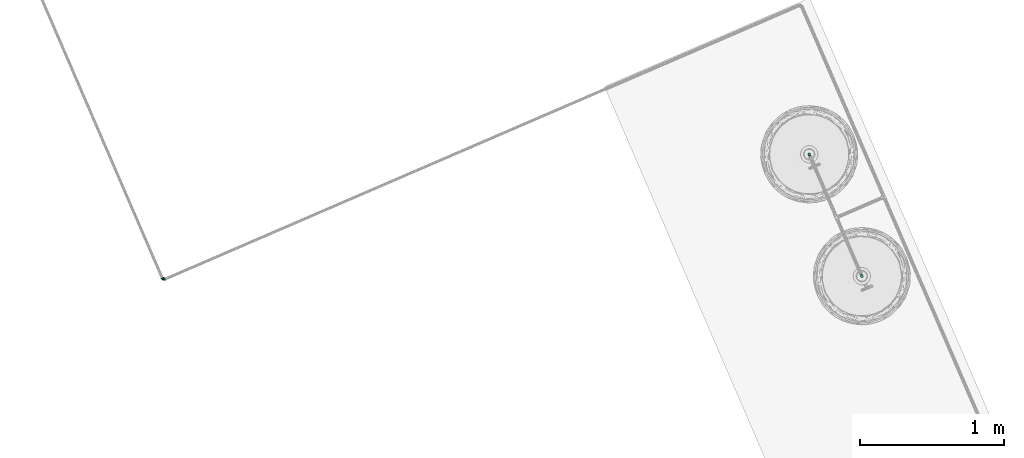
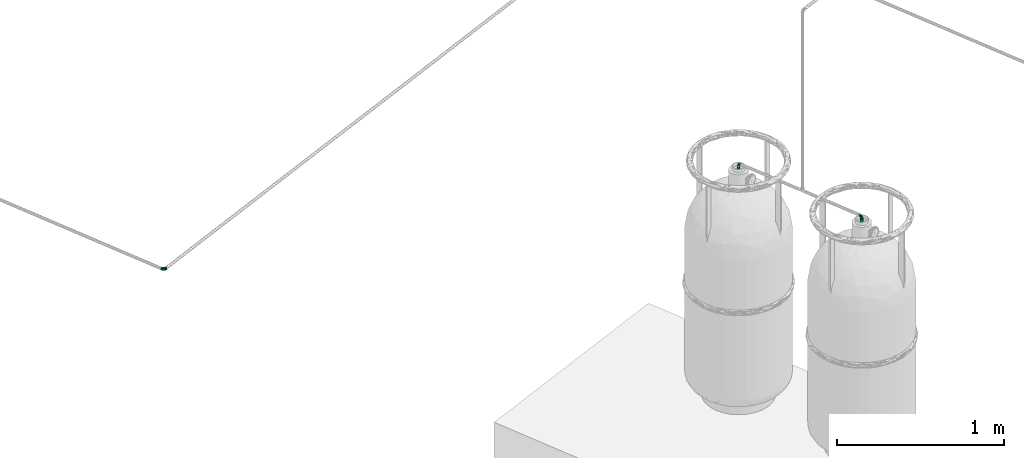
# One storey, part 21 of 26: 5 pipe fittings, 2 pipe segments.
"""IFC4 building model written with IfcOpenShell, lengths in metres."""

import ifcopenshell
import ifcopenshell.guid

model = None  # the IFC model being written
_history = None  # IfcOwnerHistory: only IFC2X3 demands one
_inside = {}  # id of a spatial element -> (the spatial element, [elements in it])
_under = {}  # id of a project, library or spatial element -> (it, [spatial elements below it])
_declared = {}  # id of a project -> (the project, [libraries it declares])
_typed = {}  # id of a type object -> (the type object, [elements of that type])
_made_of = {}  # id of a material, layer set ... -> (it, [elements and type objects made of it])


def new_model(schema):
    """Start an empty IFC model of exactly this schema.

    Asked for "IFC4X3", IfcOpenShell would pick the latest addendum, in which some entities
    have other attributes; the version numbers below select the first issue.
    IFC2X3 requires an IfcOwnerHistory on every rooted entity: one is made here for all.
    """
    global model, _history
    if schema == "IFC4X3":
        model = ifcopenshell.file(schema_version=(4, 3, 0, 0))
    else:
        model = ifcopenshell.file(schema=schema)
    _inside.clear()
    _under.clear()
    _declared.clear()
    _typed.clear()
    _made_of.clear()
    _history = None
    if model.schema == "IFC2X3":
        org = make("IfcOrganization", Name="unknown")
        user = make(
            "IfcPersonAndOrganization",
            ThePerson=make("IfcPerson", FamilyName="unknown"),
            TheOrganization=org,
        )
        app = make(
            "IfcApplication",
            ApplicationDeveloper=org,
            Version="unknown",
            ApplicationFullName="unknown",
            ApplicationIdentifier="unknown",
        )
        _history = make(
            "IfcOwnerHistory",
            OwningUser=user,
            OwningApplication=app,
            ChangeAction="ADDED",
            CreationDate=0,
        )
    return model


def make(cls, **values):
    """One entity of the class cls with the attributes given. An attribute that is None is left unset."""
    return model.create_entity(
        cls, **{name: value for name, value in values.items() if value is not None}
    )


def entity(cls, *values):
    """Any entity or typed value of the class cls, its attributes in the order of the schema. None: left unset."""
    e = model.create_entity(cls)
    for i, value in enumerate(values):
        if value is not None:
            e[i] = value
    return e


def rooted(cls, **values):
    """An entity with a GlobalId (a new one), such as an element, a storey or a relation."""
    return make(cls, GlobalId=ifcopenshell.guid.new(), OwnerHistory=_history, **values)


def si_unit(unit_type, name, prefix=None):
    """IfcSIUnit, for example si_unit("LENGTHUNIT", "METRE", prefix="MILLI")."""
    return make("IfcSIUnit", UnitType=unit_type, Prefix=prefix, Name=name)


def converted_unit(unit_type, name, factor, base, dimensions=None, offset=None):
    """IfcConversionBasedUnit, such as the inch: factor (a typed value) times the base unit."""
    return make(
        "IfcConversionBasedUnit"
        if offset is None
        else "IfcConversionBasedUnitWithOffset",
        ConversionOffset=offset,
        Dimensions=None
        if dimensions is None
        else entity("IfcDimensionalExponents", *dimensions),
        UnitType=unit_type,
        Name=name,
        ConversionFactor=make(
            "IfcMeasureWithUnit", ValueComponent=factor, UnitComponent=base
        ),
    )


def derived_unit(unit_type, elements):
    """IfcDerivedUnit: a product of units, each with its exponent."""
    return make(
        "IfcDerivedUnit",
        Elements=[
            make("IfcDerivedUnitElement", Unit=unit, Exponent=power)
            for unit, power in elements
        ],
        UnitType=unit_type,
    )


def assignment(units):
    """IfcUnitAssignment: the units of a project."""
    return None if units is None else make("IfcUnitAssignment", Units=units)


def point(xyz):
    """IfcCartesianPoint."""
    return None if xyz is None else make("IfcCartesianPoint", Coordinates=xyz)


def direction(xyz):
    """IfcDirection."""
    return None if xyz is None else make("IfcDirection", DirectionRatios=xyz)


def frame(location, z_axis=None, x_axis=None):
    """IfcAxis2Placement3D, a coordinate frame: its origin and axes. An axis left out is left unset."""
    return make(
        "IfcAxis2Placement3D",
        Location=point(location),
        Axis=direction(z_axis),
        RefDirection=direction(x_axis),
    )


def origin():
    """The frame at (0, 0, 0) with its axes left unset."""
    return frame((0.0, 0.0, 0.0))


def place(relative_to, where):
    """IfcLocalPlacement: puts the frame where relative to a parent placement (None: the world)."""
    return make(
        "IfcLocalPlacement", PlacementRelTo=relative_to, RelativePlacement=where
    )


def context(
    kind, dimensions, precision=None, world=None, true_north=None, identifier=None
):
    """IfcGeometricRepresentationContext, for example the 3D "Model" context."""
    return make(
        "IfcGeometricRepresentationContext",
        ContextIdentifier=identifier,
        ContextType=kind,
        CoordinateSpaceDimension=dimensions,
        Precision=precision,
        WorldCoordinateSystem=world,
        TrueNorth=true_north,
    )


def subcontext(parent, identifier, kind, view, scale=None):
    """IfcGeometricRepresentationSubContext, for example "Body" below "Model"."""
    return make(
        "IfcGeometricRepresentationSubContext",
        ContextIdentifier=identifier,
        ContextType=kind,
        ParentContext=parent,
        TargetScale=scale,
        TargetView=view,
    )


def project(units=None, contexts=None):
    """IfcProject with its units and contexts."""
    return rooted(
        "IfcProject",
        Name="project",
        RepresentationContexts=contexts,
        UnitsInContext=assignment(units),
    )


def spatial(cls, under=None, at=None, **own):
    """A site, building, storey or space (cls), placed at a placement, below another one or the project."""
    s = rooted(cls, ObjectPlacement=at, **own)
    if under is not None:
        _under.setdefault(under.id(), (under, []))[1].append(s)
    return s


def point_list(points):
    """IfcCartesianPointList2D or 3D."""
    cls = (
        "IfcCartesianPointList2D" if len(points[0]) == 2 else "IfcCartesianPointList3D"
    )
    return make(cls, CoordList=points)


def arc(*indices):
    """IfcArcIndex: an arc through three numbered points of an indexed curve."""
    return model.create_entity("IfcArcIndex", indices)


def indexed_curve(points, segments=None, self_intersect=None):
    """IfcIndexedPolyCurve: lines and arcs through numbered points (the first is 1)."""
    return make(
        "IfcIndexedPolyCurve",
        Points=point_list(points),
        Segments=segments,
        SelfIntersect=self_intersect,
    )


def outline(outer, holes=None, kind="AREA"):
    """IfcArbitraryClosedProfileDef: a profile drawn as a closed curve; with holes, ...WithVoids."""
    if holes is None:
        return make("IfcArbitraryClosedProfileDef", ProfileType=kind, OuterCurve=outer)
    return make(
        "IfcArbitraryProfileDefWithVoids",
        ProfileType=kind,
        OuterCurve=outer,
        InnerCurves=holes,
    )


def extrude(swept, where, along, depth):
    """IfcExtrudedAreaSolid: the profile swept, set in the frame where, extruded along a direction by depth."""
    return make(
        "IfcExtrudedAreaSolid",
        SweptArea=swept,
        Position=where,
        ExtrudedDirection=direction(along),
        Depth=depth,
    )


def polygons(points, faces, closed=None, point_numbers=None):
    """IfcPolygonalFaceSet: a face is its outer loop, then its inner loops; points numbered from 1."""
    made = []
    for loops in faces:
        if len(loops) == 1:
            made.append(make("IfcIndexedPolygonalFace", CoordIndex=loops[0]))
        else:
            made.append(
                make(
                    "IfcIndexedPolygonalFaceWithVoids",
                    CoordIndex=loops[0],
                    InnerCoordIndices=loops[1:],
                )
            )
    return make(
        "IfcPolygonalFaceSet",
        Coordinates=point_list(points),
        Closed=closed,
        Faces=made,
        PnIndex=point_numbers,
    )


def shape(context_of_items, identifier, shape_type, items):
    """IfcShapeRepresentation: the items that make up one representation, for example the "Body"."""
    return make(
        "IfcShapeRepresentation",
        ContextOfItems=context_of_items,
        RepresentationIdentifier=identifier,
        RepresentationType=shape_type,
        Items=items,
    )


def source(mapping_origin, context_of_items, identifier, shape_type, items):
    """IfcRepresentationMap: a shape defined once, which mapped items show again and again."""
    return make(
        "IfcRepresentationMap",
        MappingOrigin=mapping_origin,
        MappedRepresentation=shape(context_of_items, identifier, shape_type, items),
    )


def transform(
    local_origin,
    x_axis=None,
    y_axis=None,
    z_axis=None,
    scale=None,
    scale2=None,
    scale3=None,
    uniform=True,
):
    """IfcCartesianTransformationOperator3D, or its non-uniform kind. x_axis, y_axis, z_axis: its Axis1, 2, 3."""
    if uniform:
        return make(
            "IfcCartesianTransformationOperator3D",
            Axis1=direction(x_axis),
            Axis2=direction(y_axis),
            LocalOrigin=point(local_origin),
            Scale=scale,
            Axis3=direction(z_axis),
        )
    return make(
        "IfcCartesianTransformationOperator3DnonUniform",
        Axis1=direction(x_axis),
        Axis2=direction(y_axis),
        LocalOrigin=point(local_origin),
        Scale=scale,
        Axis3=direction(z_axis),
        Scale2=scale2,
        Scale3=scale3,
    )


def mapped(mapping_source, mapping_target):
    """IfcMappedItem: shows the shape of a source again, moved by a transform."""
    return make(
        "IfcMappedItem", MappingSource=mapping_source, MappingTarget=mapping_target
    )


def material(Name=None, Category=None):
    """IfcMaterial."""
    return make("IfcMaterial", Name=Name, Category=Category)


def made_of(thing, what):
    """Note that an element or type object is made of a material, layer set ...; save() writes the relation."""
    if what is not None:
        _made_of.setdefault(what.id(), (what, []))[1].append(thing)
    return thing


def type_object(cls, material=None, **own):
    """A type object (cls), such as IfcWallType, which elements share."""
    return made_of(rooted(cls, **own), material)


def type_shapes(of_type, sources):
    """Give a type object the sources (RepresentationMaps) that its elements show as mapped items."""
    of_type.RepresentationMaps = sources


def element(
    cls,
    number,
    at=None,
    inside=None,
    cuts=None,
    type_object=None,
    material=None,
    context=None,
    identifier="Body",
    shape_type=None,
    held_by="IfcProductDefinitionShape",
    body=None,
    shapes=None,
    **own,
):
    """One element of the class cls, such as IfcWall. Its Tag is "e" and its number.

    at: its placement. inside: the storey or other place that contains it. cuts: it is an
    opening in that element (IfcRelVoidsElement). A single representation is given by context,
    identifier, shape_type and body (its items); several are given by shapes. held_by: the class
    of the entity that holds the representations. save() writes the other relations.
    """
    e = rooted(cls, Tag="e%d" % number, ObjectPlacement=at, **own)
    if body is not None:
        shapes = [shape(context, identifier, shape_type, body)]
    if shapes is not None:
        e.Representation = make(held_by, Representations=shapes)
    if inside is not None:
        _inside.setdefault(inside.id(), (inside, []))[1].append(e)
    if cuts is not None:
        rooted(
            "IfcRelVoidsElement", RelatingBuildingElement=cuts, RelatedOpeningElement=e
        )
    if type_object is not None:
        _typed.setdefault(type_object.id(), (type_object, []))[1].append(e)
    return made_of(e, material)


def aggregate(whole, parts):
    """IfcRelAggregates: a whole, such as a stair, and the parts it consists of."""
    return rooted("IfcRelAggregates", RelatingObject=whole, RelatedObjects=parts)


def save(model, path):
    """Write the relations noted so far, then the file.

    IfcRelAggregates (storeys below a building ...), IfcRelContainedInSpatialStructure (elements
    in a storey), IfcRelDefinesByType, IfcRelAssociatesMaterial and IfcRelDeclares: one each for
    every whole, place, type object, material and project.
    """
    for whole, parts in _under.values():
        aggregate(whole, parts)
    for where, things in _inside.values():
        rooted(
            "IfcRelContainedInSpatialStructure",
            RelatedElements=things,
            RelatingStructure=where,
        )
    for kind, things in _typed.values():
        rooted("IfcRelDefinesByType", RelatedObjects=things, RelatingType=kind)
    for what, things in _made_of.values():
        rooted("IfcRelAssociatesMaterial", RelatedObjects=things, RelatingMaterial=what)
    for by, libraries in _declared.values():
        rooted("IfcRelDeclares", RelatingContext=by, RelatedDefinitions=libraries)
    model.write(path)


model = new_model("IFC4")

# Units and contexts
model_context = context("Model", 3, precision=1e-05, world=origin(), true_north=direction((6.12323399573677e-17, 1.0)))
body_context = subcontext(model_context, "Body", "Model", "MODEL_VIEW")
ifc_project = project(units=[si_unit("LENGTHUNIT", "METRE"), si_unit("AREAUNIT", "SQUARE_METRE"), si_unit("VOLUMEUNIT", "CUBIC_METRE"), si_unit("PRESSUREUNIT", "PASCAL"), derived_unit("VOLUMETRICFLOWRATEUNIT", [(si_unit("LENGTHUNIT", "METRE", prefix="DECI"), 3), (si_unit("TIMEUNIT", "SECOND"), -1)]), converted_unit("PLANEANGLEUNIT", "DEGREE", entity("IfcPlaneAngleMeasure", 0.0174532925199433), si_unit("PLANEANGLEUNIT", "RADIAN"), dimensions=[0, 0, 0, 0, 0, 0, 0])], contexts=[model_context])

# Site, building, storey
site_placement = place(None, origin())
site = spatial("IfcSite", under=ifc_project, at=site_placement, Name="Default", CompositionType="ELEMENT")
building_placement = place(site_placement, frame((24.575451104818, -55.896759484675, 317.15), z_axis=(0.0, 0.0, 1.0), x_axis=(-0.396377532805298, 0.918087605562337, 0.0)))
building = spatial("IfcBuilding", under=site, at=building_placement, CompositionType="ELEMENT")
storey_placement = place(building_placement, origin())
storey = spatial("IfcBuildingStorey", under=building, at=storey_placement, Name="Nivel 1", CompositionType="ELEMENT", Elevation=0.0)

# Pipe segments
ifc_material_1 = material(Name="Cobre", Category="Undefined")
pipe_segment_type = type_object("IfcPipeSegmentType", Name="Pipe Types:GAS", PredefinedType="NOTDEFINED")
pipe_segment_1_placement = place(storey_placement, origin())
element("IfcPipeSegment", 1, at=pipe_segment_1_placement, inside=storey, type_object=pipe_segment_type, material=ifc_material_1, Name="Pipe Types:GAS", ObjectType="Pipe Types:GAS", PredefinedType="NOTDEFINED", context=body_context, shape_type="SweptSolid", body=[
    extrude(outline(indexed_curve([(0.0100000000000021, 4.33146851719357e-15), (0.00707106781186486, 0.00707106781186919), (0.0, 0.0100000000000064), (-0.00707106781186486, 0.00707106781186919), (-0.0100000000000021, 4.33146851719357e-15), (-0.00707106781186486, -0.00707106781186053), (0.0, -0.00999999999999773), (0.00707106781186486, -0.00707106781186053)], segments=[arc(1, 2, 3), arc(3, 4, 5), arc(5, 6, 7), arc(7, 8, 1)], self_intersect=False)), frame((21.6258096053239, 38.0573549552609, 1.6445575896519), z_axis=(0.0, 0.0, 1.0), x_axis=(-1.0, 0.0, 0.0)), (0.0, 0.0, 1.0), 0.0173486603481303),
])
pipe_segment_2_placement = place(storey_placement, origin())
element("IfcPipeSegment", 2, at=pipe_segment_2_placement, inside=storey, type_object=pipe_segment_type, material=ifc_material_1, Name="Pipe Types:GAS", ObjectType="Pipe Types:GAS", PredefinedType="NOTDEFINED", context=body_context, shape_type="SweptSolid", body=[
    extrude(outline(indexed_curve([(0.0100000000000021, 4.33146851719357e-15), (0.00707106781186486, 0.00707106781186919), (0.0, 0.0100000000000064), (-0.00707106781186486, 0.00707106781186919), (-0.0100000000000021, 4.33146851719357e-15), (-0.00707106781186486, -0.00707106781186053), (0.0, -0.00999999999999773), (0.00707106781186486, -0.00707106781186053)], segments=[arc(1, 2, 3), arc(3, 4, 5), arc(5, 6, 7), arc(7, 8, 1)], self_intersect=False)), frame((22.5458096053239, 38.0573549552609, 1.6445575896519), z_axis=(0.0, 0.0, 1.0), x_axis=(-1.0, 0.0, 0.0)), (0.0, 0.0, 1.0), 0.0173486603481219),
])

# Pipe fittings
ifc_material_2 = material(Name="<Unnamed>")
pipe_fitting_type_1 = type_object("IfcPipeFittingType", Name="M_Codo - Genérico:Norma", PredefinedType="NOTDEFINED", material=ifc_material_2)
shared_shape_1 = source(origin(), body_context, "Body", "Tessellation", [
    polygons([(-0.0174624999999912, -0.0111125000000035, -1.903728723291e-15), (-0.0174624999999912, -0.0107338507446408, 0.00287612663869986), (-0.0174624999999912, -0.0096237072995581, 0.0055562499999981), (-0.0174624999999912, -0.00785772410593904, 0.00785772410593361), (-0.0174624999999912, -0.00555625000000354, 0.00962370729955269), (-0.0174624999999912, -0.00287612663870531, 0.0107338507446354), (-0.0174624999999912, -3.55315776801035e-15, 0.0111124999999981), (-0.0174624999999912, 0.00287612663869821, 0.0107338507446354), (-0.0174624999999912, 0.00555624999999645, 0.00962370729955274), (-0.0174624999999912, 0.00785772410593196, 0.00785772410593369), (-0.0174624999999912, 0.00962370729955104, 0.00555624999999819), (-0.0174624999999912, 0.0107338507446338, 0.00287612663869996), (-0.0174624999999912, 0.0111124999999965, -1.86782324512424e-15), (-0.0174624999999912, 0.0107338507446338, -0.00287612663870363), (-0.0174624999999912, 0.00962370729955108, -0.00555625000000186), (-0.0174624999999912, 0.00785772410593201, -0.00785772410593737), (-0.0174624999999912, 0.00555624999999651, -0.00962370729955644), (-0.0174624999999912, 0.00287612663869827, -0.0107338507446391), (-0.0174624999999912, -3.48759354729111e-15, -0.0111125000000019), (-0.0174624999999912, -0.00287612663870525, -0.0107338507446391), (-0.0174624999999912, -0.00555625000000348, -0.00962370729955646), (-0.0174624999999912, -0.00785772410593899, -0.0078577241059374), (-0.0174624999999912, -0.00962370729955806, -0.00555625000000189), (-0.0174624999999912, -0.0107338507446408, -0.00287612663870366), (0.0111125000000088, 0.0174624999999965, -1.89879378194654e-15), (0.010733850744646, 0.0174624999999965, -0.00287612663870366), (0.00962370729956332, 0.0174624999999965, -0.00555625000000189), (0.00785772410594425, 0.0174624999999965, -0.0078577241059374), (0.00555625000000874, 0.0174624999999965, -0.00962370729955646), (0.0028761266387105, 0.0174624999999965, -0.0107338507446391), (8.74542105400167e-15, 0.0174624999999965, -0.0111125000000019), (-0.00287612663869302, 0.0174624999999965, -0.0107338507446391), (-0.00555624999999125, 0.0174624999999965, -0.00962370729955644), (-0.00785772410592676, 0.0174624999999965, -0.00785772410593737), (-0.00962370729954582, 0.0174624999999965, -0.00555625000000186), (-0.0107338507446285, 0.0174624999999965, -0.00287612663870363), (-0.0111124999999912, 0.0174624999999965, -1.80588217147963e-15), (-0.0107338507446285, 0.0174624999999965, 0.00287612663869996), (-0.00962370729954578, 0.0174624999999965, 0.00555624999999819), (-0.00785772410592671, 0.0174624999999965, 0.00785772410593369), (-0.00555624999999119, 0.0174624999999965, 0.00962370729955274), (-0.00287612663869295, 0.0174624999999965, 0.0107338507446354), (8.81098527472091e-15, 0.0174624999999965, 0.0111124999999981), (0.00287612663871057, 0.0174624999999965, 0.0107338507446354), (0.0055562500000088, 0.0174624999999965, 0.00962370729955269), (0.0078577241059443, 0.0174624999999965, 0.00785772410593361), (0.00962370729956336, 0.0174624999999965, 0.0055562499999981), (0.010733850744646, 0.0174624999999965, 0.00287612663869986), (-0.0129723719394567, 0.0129723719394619, -1.79601228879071e-15), (-0.00317499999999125, -0.00728417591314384, -1.903728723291e-15), (0.00728417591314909, 0.00317499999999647, -1.903728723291e-15), (-0.0100511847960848, -0.00912664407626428, -1.903728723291e-15), (0.00912664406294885, 0.0100511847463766, -1.903728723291e-15), (-0.013756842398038, -0.0101195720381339, -1.903728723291e-15), (0.0101195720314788, 0.0137568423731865, -1.903728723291e-15), (-0.0156096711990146, -0.0106160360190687, -1.903728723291e-15), (0.0106160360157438, 0.0156096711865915, -1.903728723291e-15), (0.00205458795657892, -0.00205458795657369, -1.903728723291e-15), (-0.00555538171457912, 0.00884629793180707, 0.0107630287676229), (-0.00691389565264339, 0.00169494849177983, 0.011009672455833), (0.00190822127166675, 0.00896555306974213, 0.0104820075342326), (-0.00661309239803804, -0.00820540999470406, -1.903728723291e-15), (-0.00947063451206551, -0.00404538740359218, 0.00966608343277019), (0.00557118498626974, 0.0106586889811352, 0.00897323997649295), (-0.0129388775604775, 0.00860307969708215, 0.00818609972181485), (-0.00836753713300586, 0.00728984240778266, 0.0104364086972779), (-0.00044279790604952, 0.00110833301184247, 0.00926146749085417), (0.004669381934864, 0.00056020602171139, -1.903728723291e-15), (0.00194294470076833, 0.00415442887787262, 0.00930962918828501), (-0.000560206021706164, -0.00466938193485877, -1.903728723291e-15), (0.00820540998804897, 0.00661309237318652, -1.903728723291e-15), (-0.0055553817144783, 0.00884629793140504, -0.0107630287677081), (-0.00691389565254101, 0.00169494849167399, -0.0110096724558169), (0.0019082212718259, 0.00896555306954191, -0.0104820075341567), (-0.00947063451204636, -0.00404538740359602, -0.0096660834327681), (0.00557118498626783, 0.0106586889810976, -0.00897323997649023), (-0.012938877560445, 0.00860307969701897, -0.00818609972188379), (-0.00836753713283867, 0.00728984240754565, -0.010436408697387), (-0.000442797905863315, 0.00110833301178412, -0.00926146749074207), (0.00194294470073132, 0.00415442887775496, -0.00930962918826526)], [[[17, 18, 19, 20, 21, 22, 23, 24, 1, 2, 3, 4, 5, 6, 7, 8, 9, 10, 11, 12, 13, 14, 15, 16]], [[31, 32, 33, 34, 35, 36, 37, 38, 39, 40, 41, 42, 43, 44, 45, 46, 47, 48, 25, 26, 27, 28, 29, 30]], [[2, 56, 3]], [[6, 62, 7]], [[67, 69, 59]], [[39, 61, 40]], [[52, 5, 4]], [[3, 54, 4]], [[10, 63, 60]], [[5, 52, 6]], [[62, 50, 63]], [[63, 9, 8]], [[59, 66, 67]], [[6, 52, 62]], [[62, 63, 7]], [[63, 8, 7]], [[66, 65, 60]], [[44, 64, 53]], [[13, 12, 65]], [[64, 51, 71, 53]], [[2, 1, 56]], [[66, 49, 65]], [[63, 10, 9]], [[60, 50, 70]], [[49, 13, 65]], [[60, 70, 67]], [[51, 64, 61]], [[43, 64, 44]], [[53, 45, 44]], [[61, 69, 51]], [[42, 64, 43]], [[50, 60, 63]], [[55, 46, 53]], [[67, 70, 58, 68]], [[53, 46, 45]], [[51, 69, 68]], [[48, 57, 25]], [[11, 60, 65]], [[69, 61, 59]], [[52, 4, 54]], [[38, 37, 59]], [[67, 68, 69]], [[49, 59, 37]], [[55, 47, 46]], [[38, 59, 39]], [[47, 57, 48]], [[61, 41, 40]], [[56, 54, 3]], [[39, 59, 61]], [[55, 57, 47]], [[61, 64, 41]], [[41, 64, 42]], [[60, 11, 10]], [[60, 67, 66]], [[11, 65, 12]], [[49, 66, 59]], [[62, 19, 75]], [[68, 80, 51]], [[79, 78, 72]], [[73, 75, 16]], [[77, 78, 73]], [[35, 34, 74]], [[73, 16, 15]], [[58, 70, 79, 68]], [[14, 13, 77]], [[78, 49, 72]], [[49, 78, 77]], [[77, 73, 15]], [[56, 1, 24]], [[79, 70, 73]], [[22, 52, 54]], [[20, 19, 62]], [[72, 74, 80]], [[52, 22, 21]], [[21, 20, 52]], [[16, 75, 17]], [[68, 79, 80]], [[52, 20, 62]], [[72, 49, 37]], [[50, 73, 70]], [[37, 36, 72]], [[73, 78, 79]], [[53, 28, 55]], [[35, 72, 36]], [[51, 80, 74]], [[54, 23, 22]], [[76, 33, 32]], [[57, 55, 27]], [[54, 56, 23]], [[33, 74, 34]], [[23, 56, 24]], [[31, 76, 32]], [[53, 76, 30]], [[15, 14, 77]], [[29, 28, 53]], [[53, 30, 29]], [[30, 76, 31]], [[76, 74, 33]], [[27, 26, 57]], [[75, 19, 18]], [[51, 74, 76]], [[35, 74, 72]], [[18, 17, 75]], [[27, 55, 28]], [[50, 75, 73]], [[26, 25, 57]], [[76, 53, 71, 51]], [[75, 50, 62]], [[13, 49, 77]], [[80, 79, 72]]], closed=True),
])
type_shapes(pipe_fitting_type_1, [shared_shape_1])
pipe_fitting_placement = place(storey_placement, frame((23.5212669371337, 42.5138766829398, 3.0), z_axis=(0.0, 0.0, 1.0), x_axis=(-1.0, 0.0, 0.0)))
element("IfcPipeFitting", 3, at=pipe_fitting_placement, inside=storey, type_object=pipe_fitting_type_1, material=ifc_material_2, Name="M_Codo - Genérico:Norma", ObjectType="M_Codo - Genérico:Norma", PredefinedType="NOTDEFINED", context=body_context, shape_type="MappedRepresentation", body=[
    mapped(shared_shape_1, transform((0.0, 0.0, 0.0), scale=1.0)),
])
pipe_fitting_type_2 = type_object("IfcPipeFittingType", Name="M_Codo - Genérico:Norma", PredefinedType="NOTDEFINED", material=ifc_material_2)
shared_shape_2 = source(origin(), body_context, "Body", "Tessellation", [
    polygons([(-0.0144374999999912, -0.00808750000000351, -1.89395467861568e-15), (-0.0144374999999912, -0.00781192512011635, 0.00209319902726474), (-0.0144374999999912, -0.00700398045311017, 0.00404374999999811), (-0.0144374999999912, -0.00571872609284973, 0.00571872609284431), (-0.0144374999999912, -0.00404375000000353, 0.00700398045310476), (-0.0144374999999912, -0.00209319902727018, 0.00781192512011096), (-0.0144374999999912, -3.54469786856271e-15, 0.00808749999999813), (-0.0144374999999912, 0.00209319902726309, 0.00781192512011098), (-0.0144374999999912, 0.00404374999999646, 0.0070039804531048), (-0.0144374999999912, 0.00571872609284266, 0.00571872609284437), (-0.0144374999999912, 0.00700398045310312, 0.00404374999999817), (-0.0144374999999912, 0.00781192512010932, 0.00209319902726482), (-0.0144374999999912, 0.00808749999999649, -1.86782324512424e-15), (-0.0144374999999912, 0.00781192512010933, -0.0020931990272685), (-0.0144374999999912, 0.00700398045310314, -0.00404375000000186), (-0.0144374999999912, 0.0057187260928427, -0.00571872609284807), (-0.0144374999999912, 0.0040437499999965, -0.00700398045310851), (-0.0144374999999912, 0.00209319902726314, -0.00781192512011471), (-0.0144374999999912, -3.49605344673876e-15, -0.00808750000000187), (-0.0144374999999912, -0.00209319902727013, -0.00781192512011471), (-0.0144374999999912, -0.00404375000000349, -0.00700398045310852), (-0.0144374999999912, -0.0057187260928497, -0.00571872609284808), (-0.0144374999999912, -0.00700398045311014, -0.00404375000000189), (-0.0144374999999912, -0.00781192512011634, -0.00209319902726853), (0.00808750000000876, 0.0144374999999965, -1.89036310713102e-15), (0.00781192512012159, 0.0144374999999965, -0.00209319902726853), (0.0070039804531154, 0.0144374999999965, -0.00404375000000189), (0.00571872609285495, 0.0144374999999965, -0.00571872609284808), (0.00404375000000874, 0.0144374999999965, -0.00700398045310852), (0.00209319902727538, 0.0144374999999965, -0.00781192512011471), (8.74753602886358e-15, 0.0144374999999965, -0.00808750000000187), (-0.00209319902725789, 0.0144374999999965, -0.00781192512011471), (-0.00404374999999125, 0.0144374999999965, -0.00700398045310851), (-0.00571872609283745, 0.0144374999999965, -0.00571872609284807), (-0.00700398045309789, 0.0144374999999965, -0.00404375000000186), (-0.00781192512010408, 0.0144374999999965, -0.0020931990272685), (-0.00808749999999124, 0.0144374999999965, -1.82274352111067e-15), (-0.00781192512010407, 0.0144374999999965, 0.00209319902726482), (-0.00700398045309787, 0.0144374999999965, 0.00404374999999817), (-0.00571872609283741, 0.0144374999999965, 0.00571872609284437), (-0.0040437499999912, 0.0144374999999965, 0.0070039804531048), (-0.00209319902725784, 0.0144374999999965, 0.00781192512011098), (8.79618045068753e-15, 0.0144374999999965, 0.00808749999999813), (0.00209319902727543, 0.0144374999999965, 0.00781192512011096), (0.00404375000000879, 0.0144374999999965, 0.00700398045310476), (0.00571872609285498, 0.0144374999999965, 0.00571872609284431), (0.00700398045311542, 0.0144374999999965, 0.00404374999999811), (0.00781192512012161, 0.0144374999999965, 0.00209319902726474), (-0.00994737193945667, 0.00994737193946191, -1.81556037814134e-15), (-0.00317499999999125, -0.00506972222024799, -1.89395467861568e-15), (0.00506972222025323, 0.00317499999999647, -1.89395467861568e-15), (-0.00831003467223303, -0.00644565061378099, -1.89395467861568e-15), (0.00644565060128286, 0.00831003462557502, -1.89395467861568e-15), (-0.0113737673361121, -0.00726657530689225, -1.89395467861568e-15), (0.00726657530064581, 0.0113737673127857, -1.89395467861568e-15), (-0.0129056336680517, -0.00767703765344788, -1.89395467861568e-15), (0.00767703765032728, 0.0129056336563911, -1.89395467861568e-15), (0.00094736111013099, -0.000947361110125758, -1.89395467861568e-15), (-0.00146449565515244, 0.00616796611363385, 0.00803185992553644), (-0.00616796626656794, 0.00146449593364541, 0.00803185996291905), (-0.00574251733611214, -0.00575768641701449, -1.89395467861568e-15), (0.00283266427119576, 0.00817185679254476, 0.00706613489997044), (-0.00835517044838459, -0.00270811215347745, 0.00716293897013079), (-0.00636529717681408, 0.0107802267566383, 0.00585850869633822), (-0.01078022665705, 0.00636529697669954, 0.00585850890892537), (-0.00669517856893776, 0.0072264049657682, 0.00710843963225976), (-0.00112023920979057, 0.00148496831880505, 0.00694761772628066), (0.00300854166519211, 0.00111381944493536, -1.89395467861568e-15), (-0.00111381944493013, -0.00300854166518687, -1.89395467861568e-15), (0.00575768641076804, 0.00574251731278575, -1.89395467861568e-15), (-0.00146449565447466, 0.00616796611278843, -0.0080318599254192), (-0.00616796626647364, 0.00146449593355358, -0.00803185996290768), (0.00283266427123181, 0.00817185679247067, -0.00706613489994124), (-0.00835517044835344, -0.00270811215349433, -0.00716293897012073), (-0.0063652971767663, 0.0107802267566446, -0.00585850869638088), (-0.0107802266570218, 0.00636529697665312, -0.00585850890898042), (-0.00669517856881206, 0.00722640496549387, -0.00710843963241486), (-0.00112023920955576, 0.0014849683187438, -0.00694761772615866)], [[[17, 18, 19, 20, 21, 22, 23, 24, 1, 2, 3, 4, 5, 6, 7, 8, 9, 10, 11, 12, 13, 14, 15, 16]], [[31, 32, 33, 34, 35, 36, 37, 38, 39, 40, 41, 42, 43, 44, 45, 46, 47, 48, 25, 26, 27, 28, 29, 30]], [[2, 56, 3]], [[52, 61, 50, 63]], [[67, 68, 59]], [[9, 8, 63]], [[52, 5, 4]], [[3, 54, 4]], [[37, 49, 64]], [[5, 52, 6]], [[60, 65, 63]], [[7, 6, 52]], [[58, 68, 67, 69]], [[63, 7, 52]], [[63, 8, 7]], [[49, 13, 65]], [[66, 65, 60]], [[47, 57, 48]], [[11, 10, 65]], [[55, 57, 47]], [[65, 12, 11]], [[63, 10, 9]], [[62, 59, 51]], [[40, 62, 41]], [[65, 66, 49]], [[63, 65, 10]], [[66, 64, 49]], [[53, 45, 44]], [[60, 50, 69]], [[68, 51, 59]], [[62, 53, 43]], [[53, 44, 43]], [[55, 46, 53]], [[53, 46, 45]], [[62, 51, 70, 53]], [[48, 57, 25]], [[38, 37, 64]], [[52, 4, 54]], [[13, 12, 65]], [[60, 63, 50]], [[64, 59, 62]], [[55, 47, 46]], [[38, 64, 39]], [[39, 64, 40]], [[56, 54, 3]], [[62, 40, 64]], [[2, 1, 56]], [[41, 62, 42]], [[43, 42, 62]], [[67, 59, 66]], [[60, 67, 66]], [[59, 64, 66]], [[69, 67, 60]], [[74, 18, 17]], [[78, 71, 68]], [[76, 77, 72]], [[16, 15, 76]], [[74, 50, 61, 52]], [[26, 25, 57]], [[76, 74, 16]], [[35, 34, 75]], [[14, 76, 15]], [[78, 77, 71]], [[75, 77, 49]], [[56, 1, 24]], [[70, 51, 73, 53]], [[22, 52, 54]], [[52, 20, 19]], [[71, 51, 68]], [[69, 50, 72]], [[52, 22, 21]], [[21, 20, 52]], [[58, 69, 78, 68]], [[72, 77, 78]], [[37, 36, 75]], [[53, 73, 31]], [[35, 75, 36]], [[74, 72, 50]], [[53, 28, 55]], [[71, 73, 51]], [[73, 75, 34]], [[54, 23, 22]], [[32, 73, 33]], [[57, 55, 27]], [[54, 56, 23]], [[73, 34, 33]], [[72, 74, 76]], [[32, 31, 73]], [[14, 13, 76]], [[29, 28, 53]], [[53, 30, 29]], [[49, 37, 75]], [[53, 31, 30]], [[27, 26, 57]], [[78, 69, 72]], [[71, 75, 73]], [[16, 74, 17]], [[27, 55, 28]], [[77, 75, 71]], [[23, 56, 24]], [[13, 49, 76]], [[74, 52, 19]], [[77, 76, 49]], [[74, 19, 18]]], closed=True),
])
type_shapes(pipe_fitting_type_2, [shared_shape_2])
for number, where, z_axis, x_axis in (
    (4, (22.5458096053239, 38.0573549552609, 1.68190000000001), (0.0, -1.0, 0.0), (0.0, 0.0, 1.0)),
    (5, (21.6258096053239, 38.0573549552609, 1.68190000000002), (0.0, 1.0, 0.0), (0.0, 0.0, 1.0)),
):
    element("IfcPipeFitting", number, at=place(storey_placement, frame(where, z_axis=z_axis, x_axis=x_axis)), inside=storey, type_object=pipe_fitting_type_2, material=ifc_material_2, Name="M_Codo - Genérico:Norma", ObjectType="M_Codo - Genérico:Norma", PredefinedType="NOTDEFINED", context=body_context, shape_type="MappedRepresentation", body=[
        mapped(shared_shape_2, transform((0.0, 0.0, 0.0), scale=1.0)),
    ])
pipe_fitting_type_3 = type_object("IfcPipeFittingType", Name="M_Transición - Genérica:Norma", PredefinedType="NOTDEFINED", material=ifc_material_2)
shared_shape_3 = source(origin(), body_context, "Body", "Tessellation", [
    polygons([(0.00555625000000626, -0.0111125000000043, 5.58772677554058e-15), (0.00555625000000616, -0.00555625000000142, -0.00962370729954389), (0.00555625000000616, 0.00555624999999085, -0.00962370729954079), (0.00555625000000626, 0.0111124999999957, 5.55182129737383e-15), (0.00555625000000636, 0.00555624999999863, 0.00962370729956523), (0.00555625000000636, -0.00555625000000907, 0.0096237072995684), (6.26381199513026e-15, -0.00808750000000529, 2.2539862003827e-17), (6.33577987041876e-15, -0.00404375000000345, 0.00700398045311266), (6.33577987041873e-15, 0.00404375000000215, 0.00700398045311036), (6.26381199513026e-15, 0.0080874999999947, -4.50797240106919e-17), (6.1918441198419e-15, 0.00404374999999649, -0.00700398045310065), (6.19184411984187e-15, -0.00404374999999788, -0.00700398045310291)], [[[5, 6, 1, 2, 3, 4]], [[7, 8, 9, 10, 11, 12]], [[7, 12, 2, 1]], [[12, 11, 3, 2]], [[11, 10, 4, 3]], [[10, 9, 5, 4]], [[9, 8, 6, 5]], [[8, 7, 1, 6]]], closed=True),
])
type_shapes(pipe_fitting_type_3, [shared_shape_3])
for number, where, z_axis, x_axis in (
    (6, (21.6258096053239, 38.0573549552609, 1.63900133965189), (0.0, -1.0, 0.0), (0.0, 0.0, 1.0)),
    (7, (21.6258096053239, 38.0573549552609, 1.66746250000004), (0.0, -1.0, 0.0), (0.0, 0.0, -1.0)),
):
    element("IfcPipeFitting", number, at=place(storey_placement, frame(where, z_axis=z_axis, x_axis=x_axis)), inside=storey, type_object=pipe_fitting_type_3, material=ifc_material_2, Name="M_Transición - Genérica:Norma", ObjectType="M_Transición - Genérica:Norma", PredefinedType="NOTDEFINED", context=body_context, shape_type="MappedRepresentation", body=[
        mapped(shared_shape_3, transform((0.0, 0.0, 0.0), scale=1.0)),
    ])

save(model, "model.ifc")
